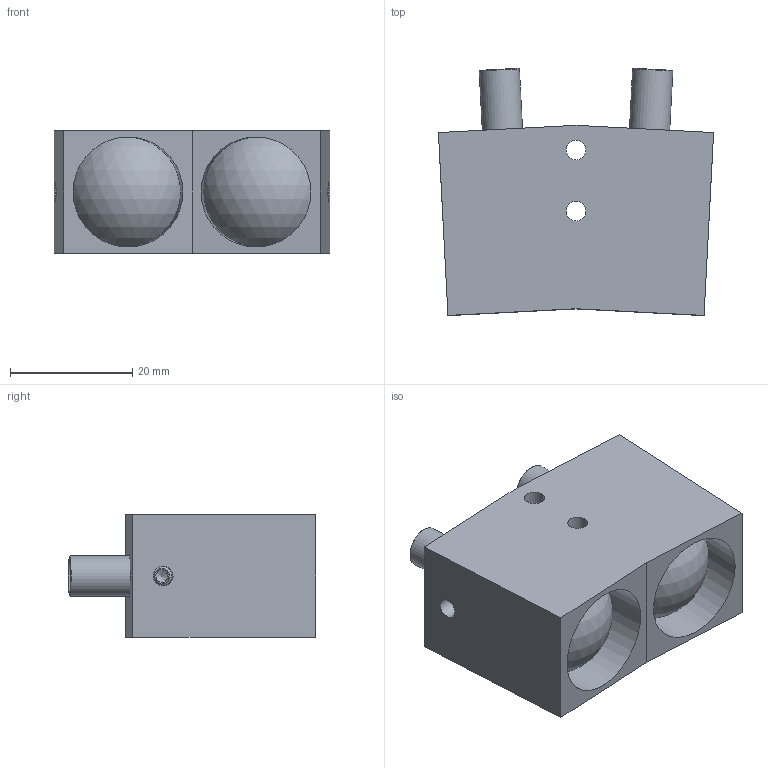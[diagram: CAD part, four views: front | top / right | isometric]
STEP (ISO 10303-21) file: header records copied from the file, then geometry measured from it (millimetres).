
FILE_DESCRIPTION((''),'2;1');
FILE_NAME('Q:\Konstruktion\E-Mail-Zeichnungen\STEP\KL-6.stp','2010-01-20T10:28:23',('GuentherB'),(''),'Autodesk Inventor 2009','Autodesk Inventor 2009','');
FILE_SCHEMA(('AUTOMOTIVE_DESIGN { 1 0 10303 214 1 1 1 1 }'));
Length unit declared in the file: millimetre
Products named in the file (1): Bauteil1
Bounding box: 45.08 x 40.5 x 20 mm (x, y, z)
Volume: 23932.3 mm3; surface area: 7809.8 mm2
Topology: 1 solids, 1 shells, 50 faces, 115 edges, 77 vertices
Faces by surface type: plane 28, cone 8, bspline 8, cylinder 4, sphere 2
Full cylindrical faces by diameter (mm): 6 x2, 6.6 x2
Entity records: 1428 total; most frequent: CARTESIAN_POINT 361, DIRECTION 188, ORIENTED_EDGE 168, EDGE_CURVE 84, EDGE_LOOP 84, AXIS2_PLACEMENT_3D 73, VERTEX_POINT 66, FACE_OUTER_BOUND 50
